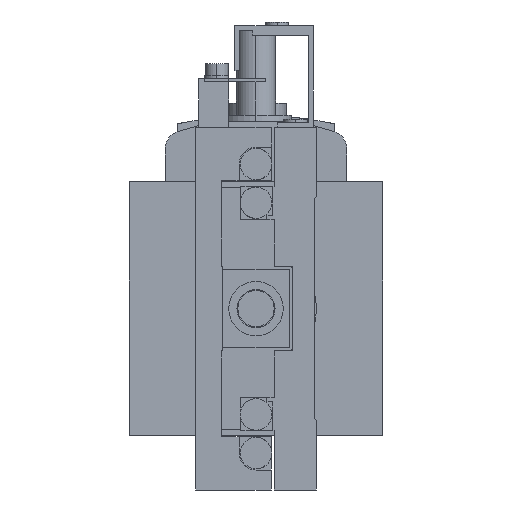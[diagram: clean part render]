
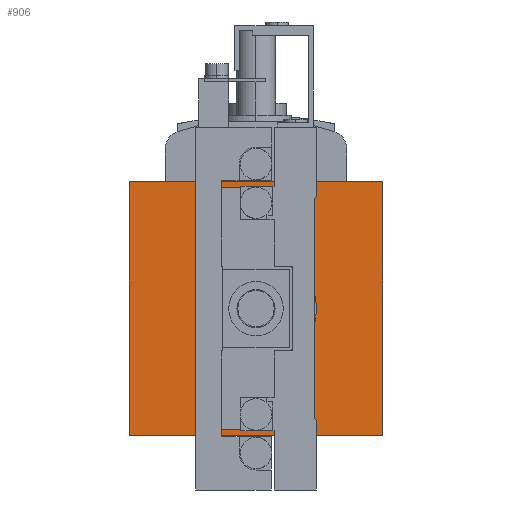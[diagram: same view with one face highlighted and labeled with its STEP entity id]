
A CAD part, left-side view. The second image highlights one B-rep face of the part: STEP entity #906.
In plain terms, the highlighted planar face has unit normal (-1, 0, 0).
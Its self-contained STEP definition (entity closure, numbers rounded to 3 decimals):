
#906=ADVANCED_FACE('',(#2193,#2194),#2195,.F.);
#2193=FACE_BOUND('',#3513,.T.);
#2194=FACE_OUTER_BOUND('',#3514,.T.);
#2195=PLANE('',#3515);
#3513=EDGE_LOOP('',(#8269,#8270,#8271,#8272,#8273,#8274,#8275,#8276,#8277,#8278,#8279,#8280,#8281,#8282,#8283,#8284));
#3514=EDGE_LOOP('',(#8285,#8286,#8287,#8288));
#3515=AXIS2_PLACEMENT_3D('',#8289,#8290,#8291);
#8269=ORIENTED_EDGE('',*,*,#9960,.F.);
#8270=ORIENTED_EDGE('',*,*,#9969,.F.);
#8271=ORIENTED_EDGE('',*,*,#9965,.F.);
#8272=ORIENTED_EDGE('',*,*,#9913,.T.);
#8273=ORIENTED_EDGE('',*,*,#9795,.F.);
#8274=ORIENTED_EDGE('',*,*,#9852,.F.);
#8275=ORIENTED_EDGE('',*,*,#9961,.F.);
#8276=ORIENTED_EDGE('',*,*,#9970,.F.);
#8277=ORIENTED_EDGE('',*,*,#9948,.T.);
#8278=ORIENTED_EDGE('',*,*,#9843,.F.);
#8279=ORIENTED_EDGE('',*,*,#9805,.T.);
#8280=ORIENTED_EDGE('',*,*,#9879,.T.);
#8281=ORIENTED_EDGE('',*,*,#9903,.F.);
#8282=ORIENTED_EDGE('',*,*,#9968,.F.);
#8283=ORIENTED_EDGE('',*,*,#9949,.T.);
#8284=ORIENTED_EDGE('',*,*,#9747,.F.);
#8285=ORIENTED_EDGE('',*,*,#9972,.F.);
#8286=ORIENTED_EDGE('',*,*,#9973,.F.);
#8287=ORIENTED_EDGE('',*,*,#9974,.F.);
#8288=ORIENTED_EDGE('',*,*,#9975,.F.);
#8289=CARTESIAN_POINT('',(67.5,-11.,21.));
#8290=DIRECTION('',(1.0,0.0,0.));
#8291=DIRECTION('',(0.0,-1.0,0.0));
#9747=EDGE_CURVE('',#12104,#12100,#12106,.F.);
#9795=EDGE_CURVE('',#12195,#12196,#12197,.T.);
#9805=EDGE_CURVE('',#12215,#12216,#12217,.T.);
#9843=EDGE_CURVE('',#12215,#12282,#12283,.T.);
#9852=EDGE_CURVE('',#12295,#12195,#12297,.T.);
#9879=EDGE_CURVE('',#12216,#12336,#12338,.T.);
#9903=EDGE_CURVE('',#12373,#12336,#12375,.T.);
#9913=EDGE_CURVE('',#12389,#12196,#12390,.T.);
#9948=EDGE_CURVE('',#12100,#12282,#12436,.T.);
#9949=EDGE_CURVE('',#12437,#12100,#12438,.T.);
#9960=EDGE_CURVE('',#12452,#12104,#12453,.T.);
#9961=EDGE_CURVE('',#12104,#12295,#12454,.T.);
#9965=EDGE_CURVE('',#12389,#12458,#12459,.T.);
#9968=EDGE_CURVE('',#12437,#12373,#12462,.T.);
#9969=EDGE_CURVE('',#12458,#12452,#12463,.T.);
#9970=EDGE_CURVE('',#12100,#12104,#12464,.F.);
#9972=EDGE_CURVE('',#12466,#12467,#12468,.T.);
#9973=EDGE_CURVE('',#12469,#12466,#12470,.T.);
#9974=EDGE_CURVE('',#12471,#12469,#12472,.T.);
#9975=EDGE_CURVE('',#12467,#12471,#12473,.T.);
#12100=VERTEX_POINT('',#15484);
#12104=VERTEX_POINT('',#15489);
#12106=CIRCLE('',#15492,10.);
#12195=VERTEX_POINT('',#15600);
#12196=VERTEX_POINT('',#15601);
#12197=LINE('',#15602,#15603);
#12215=VERTEX_POINT('',#15630);
#12216=VERTEX_POINT('',#15631);
#12217=LINE('',#15632,#15633);
#12282=VERTEX_POINT('',#15730);
#12283=LINE('',#15731,#15732);
#12295=VERTEX_POINT('',#15750);
#12297=LINE('',#15753,#15754);
#12336=VERTEX_POINT('',#15811);
#12338=LINE('',#15814,#15815);
#12373=VERTEX_POINT('',#15870);
#12375=LINE('',#15873,#15874);
#12389=VERTEX_POINT('',#15897);
#12390=LINE('',#15898,#15899);
#12436=LINE('',#15972,#15973);
#12437=VERTEX_POINT('',#15974);
#12438=LINE('',#15975,#15976);
#12452=VERTEX_POINT('',#16000);
#12453=LINE('',#16001,#16002);
#12454=LINE('',#16003,#16004);
#12458=VERTEX_POINT('',#16011);
#12459=LINE('',#16012,#16013);
#12462=LINE('',#16018,#16019);
#12463=LINE('',#16020,#16021);
#12464=CIRCLE('',#16022,10.);
#12466=VERTEX_POINT('',#16024);
#12467=VERTEX_POINT('',#16025);
#12468=LINE('',#16026,#16027);
#12469=VERTEX_POINT('',#16028);
#12470=LINE('',#16029,#16030);
#12471=VERTEX_POINT('',#16031);
#12472=LINE('',#16032,#16033);
#12473=LINE('',#16034,#16035);
#15484=CARTESIAN_POINT('',(67.5,10.0,10.));
#15489=CARTESIAN_POINT('',(67.5,10.0,-10.));
#15492=AXIS2_PLACEMENT_3D('',#18235,#18236,#18237);
#15600=CARTESIAN_POINT('',(67.5,18.5,-20.0));
#15601=CARTESIAN_POINT('',(67.5,1.5,-20.0));
#15602=CARTESIAN_POINT('',(67.5,223.901,-20.0));
#15603=VECTOR('',#18341,1000.0);
#15630=CARTESIAN_POINT('',(67.5,18.5,20.0));
#15631=CARTESIAN_POINT('',(67.5,1.5,20.0));
#15632=CARTESIAN_POINT('',(67.5,19.5,20.0));
#15633=VECTOR('',#18351,1000.0);
#15730=CARTESIAN_POINT('',(67.5,18.5,10.0));
#15731=CARTESIAN_POINT('',(67.5,18.5,20.0));
#15732=VECTOR('',#18399,1000.0);
#15750=CARTESIAN_POINT('',(67.5,18.5,-10.0));
#15753=CARTESIAN_POINT('',(67.5,18.5,20.0));
#15754=VECTOR('',#18410,1000.0);
#15811=CARTESIAN_POINT('',(67.5,1.5,14.25));
#15814=CARTESIAN_POINT('',(67.5,1.5,20.0));
#15815=VECTOR('',#18451,1000.0);
#15870=CARTESIAN_POINT('',(67.5,7.75,14.25));
#15873=CARTESIAN_POINT('',(67.5,7.75,14.25));
#15874=VECTOR('',#18479,1000.0);
#15897=CARTESIAN_POINT('',(67.5,1.5,-14.25));
#15898=CARTESIAN_POINT('',(67.5,1.5,20.0));
#15899=VECTOR('',#18489,1000.0);
#15972=CARTESIAN_POINT('',(67.5,19.5,10.0));
#15973=VECTOR('',#18538,1000.0);
#15974=CARTESIAN_POINT('',(67.5,7.75,10.0));
#15975=CARTESIAN_POINT('',(67.5,19.5,10.0));
#15976=VECTOR('',#18539,1000.0);
#16000=CARTESIAN_POINT('',(67.5,7.75,-10.0));
#16001=CARTESIAN_POINT('',(67.5,7.75,-10.0));
#16002=VECTOR('',#18550,1000.0);
#16003=CARTESIAN_POINT('',(67.5,7.75,-10.0));
#16004=VECTOR('',#18551,1000.0);
#16011=CARTESIAN_POINT('',(67.5,7.75,-14.25));
#16012=CARTESIAN_POINT('',(67.5,0.5,-14.25));
#16013=VECTOR('',#18555,1000.0);
#16018=CARTESIAN_POINT('',(67.5,7.75,10.0));
#16019=VECTOR('',#18558,1000.0);
#16020=CARTESIAN_POINT('',(67.5,7.75,-14.25));
#16021=VECTOR('',#18559,1000.0);
#16022=AXIS2_PLACEMENT_3D('',#18560,#18561,#18562);
#16024=CARTESIAN_POINT('',(67.5,31.,21.));
#16025=CARTESIAN_POINT('',(67.5,-11.,21.));
#16026=CARTESIAN_POINT('',(67.5,31.,21.));
#16027=VECTOR('',#18566,1000.0);
#16028=CARTESIAN_POINT('',(67.5,31.,-21.));
#16029=CARTESIAN_POINT('',(67.5,31.,-21.));
#16030=VECTOR('',#18567,1000.0);
#16031=CARTESIAN_POINT('',(67.5,-11.,-21.));
#16032=CARTESIAN_POINT('',(67.5,-11.,-21.));
#16033=VECTOR('',#18568,1000.0);
#16034=CARTESIAN_POINT('',(67.5,-11.,21.));
#16035=VECTOR('',#18569,1000.0);
#18235=CARTESIAN_POINT('',(67.5,10.0,0.));
#18236=DIRECTION('',(1.0,0.0,0.));
#18237=DIRECTION('',(0.,0.0,-1.0));
#18341=DIRECTION('',(0.0,-1.0,0.0));
#18351=DIRECTION('',(0.0,-1.0,0.0));
#18399=DIRECTION('',(0.0,0.0,-1.0));
#18410=DIRECTION('',(0.0,0.0,-1.0));
#18451=DIRECTION('',(0.0,0.0,-1.0));
#18479=DIRECTION('',(0.0,-1.0,0.0));
#18489=DIRECTION('',(0.0,0.0,-1.0));
#18538=DIRECTION('',(0.0,1.0,0.0));
#18539=DIRECTION('',(0.0,1.0,0.0));
#18550=DIRECTION('',(0.0,1.0,0.0));
#18551=DIRECTION('',(0.0,1.0,0.0));
#18555=DIRECTION('',(0.0,1.0,0.0));
#18558=DIRECTION('',(0.0,0.0,1.0));
#18559=DIRECTION('',(0.0,0.0,1.0));
#18560=CARTESIAN_POINT('',(67.5,10.0,0.));
#18561=DIRECTION('',(1.0,0.0,0.));
#18562=DIRECTION('',(0.,0.0,-1.0));
#18566=DIRECTION('',(0.0,-1.0,0.0));
#18567=DIRECTION('',(0.,0.0,1.0));
#18568=DIRECTION('',(0.0,1.0,0.0));
#18569=DIRECTION('',(0.,0.0,-1.0));
